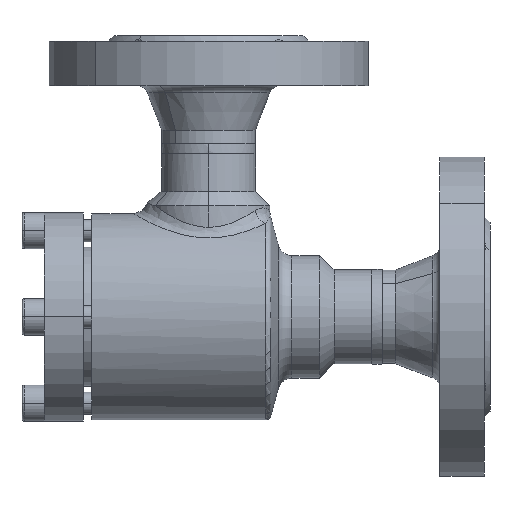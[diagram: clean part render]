
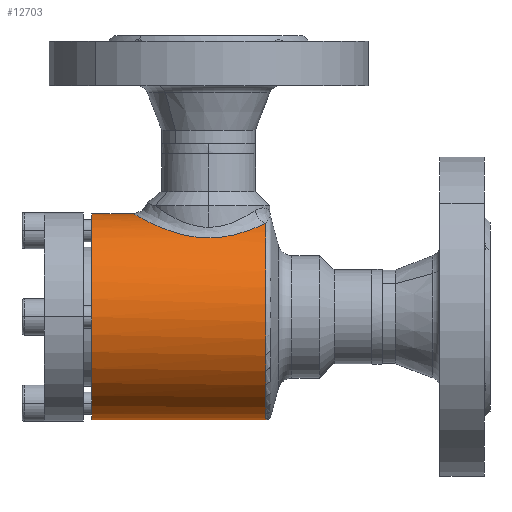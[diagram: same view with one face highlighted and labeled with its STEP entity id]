
A CAD part, left-side view. The second image highlights one B-rep face of the part: STEP entity #12703.
In plain terms, the highlighted cylindrical face has radius 37 mm (diameter 74 mm), a partial arc.
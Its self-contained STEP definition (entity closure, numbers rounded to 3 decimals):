
#1882 = ORIENTED_EDGE ( 'NONE', *, *, #2393, .T. ) ;
#1917 = VERTEX_POINT ( 'NONE', #6571 ) ;
#2020 = EDGE_LOOP ( 'NONE', ( #5058, #1882, #15853, #11106, #12589 ) ) ;
#2132 = EDGE_CURVE ( 'NONE', #1917, #3129, #6874, .T. ) ;
#2341 = VERTEX_POINT ( 'NONE', #7193 ) ;
#2393 = EDGE_CURVE ( 'NONE', #12621, #2341, #7208, .T. ) ;
#3129 = VERTEX_POINT ( 'NONE', #10322 ) ;
#4332 = EDGE_CURVE ( 'NONE', #10077, #3129, #11972, .T. ) ;
#5058 = ORIENTED_EDGE ( 'NONE', *, *, #10204, .F. ) ;
#6571 = CARTESIAN_POINT ( 'NONE',  ( 0., -15., 37. ) ) ;
#6874 = LINE ( 'NONE', #6875, #6876 ) ;
#6875 = CARTESIAN_POINT ( 'NONE',  ( 0., -68., 37. ) ) ;
#6876 = VECTOR ( 'NONE', #6877, 1000. ) ;
#6877 = DIRECTION ( 'NONE',  ( 0., 1., 0. ) ) ;
#7193 = CARTESIAN_POINT ( 'NONE',  ( -15.535, -62.446, 33.581 ) ) ;
#7208 = CIRCLE ( 'NONE', #7209, 37. ) ;
#7209 = AXIS2_PLACEMENT_3D ( 'NONE', #7210, #7211, #7212 ) ;
#7210 = CARTESIAN_POINT ( 'NONE',  ( 0., -62.446, 0. ) ) ;
#7211 = DIRECTION ( 'NONE',  ( 0., 1., 0. ) ) ;
#7212 = DIRECTION ( 'NONE',  ( 0., 0., -1. ) ) ;
#10077 = VERTEX_POINT ( 'NONE', #14282 ) ;
#10204 = EDGE_CURVE ( 'NONE', #12621, #10077, #14438, .T. ) ;
#10322 = CARTESIAN_POINT ( 'NONE',  ( 0., 0., 37. ) ) ;
#11106 = ORIENTED_EDGE ( 'NONE', *, *, #2132, .T. ) ;
#11726 = CARTESIAN_POINT ( 'NONE',  ( 0., -62.446, -37. ) ) ;
#11972 = CIRCLE ( 'NONE', #11973, 37. ) ;
#11973 = AXIS2_PLACEMENT_3D ( 'NONE', #11974, #11975, #11976 ) ;
#11974 = CARTESIAN_POINT ( 'NONE',  ( 0., 0., 0. ) ) ;
#11975 = DIRECTION ( 'NONE',  ( 0., 1., 0. ) ) ;
#11976 = DIRECTION ( 'NONE',  ( 0., 0., 1. ) ) ;
#12589 = ORIENTED_EDGE ( 'NONE', *, *, #4332, .F. ) ;
#12621 = VERTEX_POINT ( 'NONE', #11726 ) ;
#12703 = ADVANCED_FACE ( 'NONE', ( #13766 ), #13768, .T. ) ;
#13405 = EDGE_CURVE ( 'NONE', #2341, #1917, #14765, .T. ) ;
#13766 = FACE_OUTER_BOUND ( 'NONE', #2020, .T. ) ;
#13768 = CYLINDRICAL_SURFACE ( 'NONE', #13769, 37. ) ;
#13769 = AXIS2_PLACEMENT_3D ( 'NONE', #13770, #13771, #13772 ) ;
#13770 = CARTESIAN_POINT ( 'NONE',  ( 0., -68., 0. ) ) ;
#13771 = DIRECTION ( 'NONE',  ( 0., 1., 0. ) ) ;
#13772 = DIRECTION ( 'NONE',  ( 0., 0., 1. ) ) ;
#14282 = CARTESIAN_POINT ( 'NONE',  ( 0., 0., -37. ) ) ;
#14438 = LINE ( 'NONE', #14439, #14440 ) ;
#14439 = CARTESIAN_POINT ( 'NONE',  ( 0., -68., -37. ) ) ;
#14440 = VECTOR ( 'NONE', #14441, 1000. ) ;
#14441 = DIRECTION ( 'NONE',  ( 0., 1., 0. ) ) ;
#14765 = B_SPLINE_CURVE_WITH_KNOTS ( 'NONE', 3,
 ( #14766, #14767, #14768, #14769, #14770, #14771, #14772, #14773, #14774, #14775, #14776, #14777, #14779, #14780, #14781, #14782, #14783, #14784, #14785, #14786, #14787, #14788, #14789, #14790, #14791, #14792, #14793, #14794, #14796, #14797, #14798, #14799, #14800, #14801, #14802, #14803, #14804, #14805, #14806, #14807, #14808, #14809, #14810, #14811, #14813, #14814, #14815, #14816 ),
 .UNSPECIFIED., .F., .F.,
 ( 4, 2, 2, 2, 2, 2, 2, 2, 2, 2, 2, 2, 2, 2, 2, 2, 2, 2, 2, 2, 2, 2, 2, 4 ),
 ( 0., 0.004, 0.008, 0.01, 0.012, 0.016, 0.018, 0.02, 0.024, 0.026, 0.028, 0.03, 0.032, 0.036, 0.04, 0.042, 0.044, 0.048, 0.05, 0.052, 0.056, 0.058, 0.06, 0.064 ),
 .UNSPECIFIED. ) ;
#14766 = CARTESIAN_POINT ( 'NONE',  ( -15.535, -62.446, 33.581 ) ) ;
#14767 = CARTESIAN_POINT ( 'NONE',  ( -16.452, -61.548, 33.157 ) ) ;
#14768 = CARTESIAN_POINT ( 'NONE',  ( -17.286, -60.594, 32.725 ) ) ;
#14769 = CARTESIAN_POINT ( 'NONE',  ( -18.811, -58.577, 31.873 ) ) ;
#14770 = CARTESIAN_POINT ( 'NONE',  ( -19.502, -57.514, 31.452 ) ) ;
#14771 = CARTESIAN_POINT ( 'NONE',  ( -20.434, -55.835, 30.848 ) ) ;
#14772 = CARTESIAN_POINT ( 'NONE',  ( -20.728, -55.259, 30.65 ) ) ;
#14773 = CARTESIAN_POINT ( 'NONE',  ( -21.277, -54.088, 30.272 ) ) ;
#14774 = CARTESIAN_POINT ( 'NONE',  ( -21.531, -53.494, 30.092 ) ) ;
#14775 = CARTESIAN_POINT ( 'NONE',  ( -22.233, -51.685, 29.581 ) ) ;
#14776 = CARTESIAN_POINT ( 'NONE',  ( -22.624, -50.442, 29.28 ) ) ;
#14777 = CARTESIAN_POINT ( 'NONE',  ( -23.09, -48.518, 28.912 ) ) ;
#14779 = CARTESIAN_POINT ( 'NONE',  ( -23.225, -47.864, 28.803 ) ) ;
#14780 = CARTESIAN_POINT ( 'NONE',  ( -23.453, -46.548, 28.618 ) ) ;
#14781 = CARTESIAN_POINT ( 'NONE',  ( -23.545, -45.887, 28.542 ) ) ;
#14782 = CARTESIAN_POINT ( 'NONE',  ( -23.756, -43.897, 28.367 ) ) ;
#14783 = CARTESIAN_POINT ( 'NONE',  ( -23.81, -42.56, 28.321 ) ) ;
#14784 = CARTESIAN_POINT ( 'NONE',  ( -23.758, -40.538, 28.365 ) ) ;
#14785 = CARTESIAN_POINT ( 'NONE',  ( -23.718, -39.862, 28.398 ) ) ;
#14786 = CARTESIAN_POINT ( 'NONE',  ( -23.596, -38.528, 28.5 ) ) ;
#14787 = CARTESIAN_POINT ( 'NONE',  ( -23.513, -37.867, 28.569 ) ) ;
#14788 = CARTESIAN_POINT ( 'NONE',  ( -23.304, -36.555, 28.739 ) ) ;
#14789 = CARTESIAN_POINT ( 'NONE',  ( -23.179, -35.905, 28.84 ) ) ;
#14790 = CARTESIAN_POINT ( 'NONE',  ( -22.886, -34.615, 29.073 ) ) ;
#14791 = CARTESIAN_POINT ( 'NONE',  ( -22.718, -33.974, 29.205 ) ) ;
#14792 = CARTESIAN_POINT ( 'NONE',  ( -22.153, -32.08, 29.639 ) ) ;
#14793 = CARTESIAN_POINT ( 'NONE',  ( -21.7, -30.866, 29.975 ) ) ;
#14794 = CARTESIAN_POINT ( 'NONE',  ( -20.645, -28.526, 30.712 ) ) ;
#14796 = CARTESIAN_POINT ( 'NONE',  ( -20.043, -27.4, 31.112 ) ) ;
#14797 = CARTESIAN_POINT ( 'NONE',  ( -19.02, -25.773, 31.74 ) ) ;
#14798 = CARTESIAN_POINT ( 'NONE',  ( -18.66, -25.243, 31.953 ) ) ;
#14799 = CARTESIAN_POINT ( 'NONE',  ( -17.908, -24.217, 32.381 ) ) ;
#14800 = CARTESIAN_POINT ( 'NONE',  ( -17.515, -23.72, 32.595 ) ) ;
#14801 = CARTESIAN_POINT ( 'NONE',  ( -16.284, -22.274, 33.237 ) ) ;
#14802 = CARTESIAN_POINT ( 'NONE',  ( -15.395, -21.372, 33.662 ) ) ;
#14803 = CARTESIAN_POINT ( 'NONE',  ( -13.943, -20.115, 34.276 ) ) ;
#14804 = CARTESIAN_POINT ( 'NONE',  ( -13.437, -19.71, 34.478 ) ) ;
#14805 = CARTESIAN_POINT ( 'NONE',  ( -12.398, -18.947, 34.865 ) ) ;
#14806 = CARTESIAN_POINT ( 'NONE',  ( -11.864, -18.588, 35.051 ) ) ;
#14807 = CARTESIAN_POINT ( 'NONE',  ( -10.215, -17.575, 35.581 ) ) ;
#14808 = CARTESIAN_POINT ( 'NONE',  ( -9.054, -16.989, 35.897 ) ) ;
#14809 = CARTESIAN_POINT ( 'NONE',  ( -7.207, -16.258, 36.297 ) ) ;
#14810 = CARTESIAN_POINT ( 'NONE',  ( -6.575, -16.041, 36.417 ) ) ;
#14811 = CARTESIAN_POINT ( 'NONE',  ( -5.29, -15.666, 36.626 ) ) ;
#14813 = CARTESIAN_POINT ( 'NONE',  ( -4.64, -15.508, 36.714 ) ) ;
#14814 = CARTESIAN_POINT ( 'NONE',  ( -2.677, -15.129, 36.926 ) ) ;
#14815 = CARTESIAN_POINT ( 'NONE',  ( -1.349, -15., 37. ) ) ;
#14816 = CARTESIAN_POINT ( 'NONE',  ( 0., -15., 37. ) ) ;
#15853 = ORIENTED_EDGE ( 'NONE', *, *, #13405, .T. ) ;
